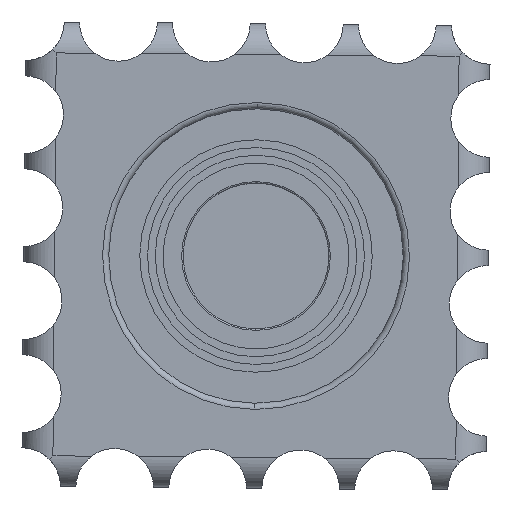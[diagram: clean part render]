
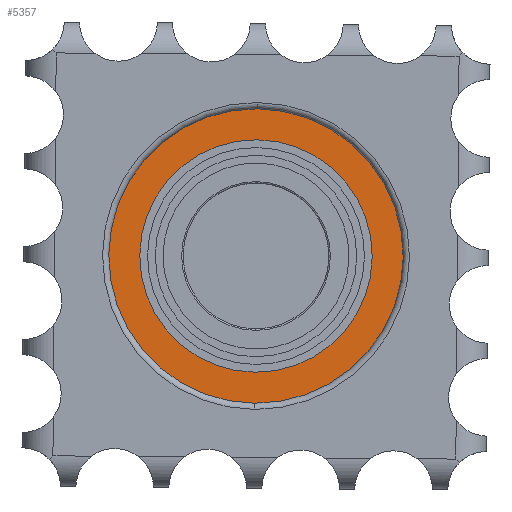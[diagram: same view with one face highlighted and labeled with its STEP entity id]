
A CAD part, front view. The second image highlights one B-rep face of the part: STEP entity #5357.
In plain terms, the highlighted planar face has unit normal (0, -1, 0).
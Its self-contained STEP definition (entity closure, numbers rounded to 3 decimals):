
#770 = FACE_BOUND ( 'NONE', #3959, .T. ) ;
#872 = EDGE_LOOP ( 'NONE', ( #2898, #2357 ) ) ;
#908 = CARTESIAN_POINT ( 'NONE',  ( 0., 2., 37.5 ) ) ;
#917 = CARTESIAN_POINT ( 'NONE',  ( 0., 2., 0. ) ) ;
#979 = DIRECTION ( 'NONE',  ( 0., 1., 0. ) ) ;
#1129 = AXIS2_PLACEMENT_3D ( 'NONE', #917, #1897, #4273 ) ;
#1205 = EDGE_CURVE ( 'NONE', #3517, #1518, #4830, .T. ) ;
#1348 = PLANE ( 'NONE',  #3255 ) ;
#1372 = CARTESIAN_POINT ( 'NONE',  ( 0., 2., 0. ) ) ;
#1518 = VERTEX_POINT ( 'NONE', #908 ) ;
#1589 = CARTESIAN_POINT ( 'NONE',  ( 0., 2., 0. ) ) ;
#1768 = CARTESIAN_POINT ( 'NONE',  ( 0., 2., -47.5 ) ) ;
#1825 = DIRECTION ( 'NONE',  ( 0., -1., 0. ) ) ;
#1851 = CARTESIAN_POINT ( 'NONE',  ( 0., 2., 0. ) ) ;
#1897 = DIRECTION ( 'NONE',  ( 0., 1., 0. ) ) ;
#1991 = CARTESIAN_POINT ( 'NONE',  ( 0., 2., 0. ) ) ;
#2088 = EDGE_CURVE ( 'NONE', #1518, #3517, #2513, .T. ) ;
#2357 = ORIENTED_EDGE ( 'NONE', *, *, #5353, .T. ) ;
#2513 = CIRCLE ( 'NONE', #3542, 37.5 ) ;
#2817 = VERTEX_POINT ( 'NONE', #1768 ) ;
#2822 = DIRECTION ( 'NONE',  ( 0., 0., -1. ) ) ;
#2898 = ORIENTED_EDGE ( 'NONE', *, *, #5150, .T. ) ;
#2916 = DIRECTION ( 'NONE',  ( 0., 0., -1. ) ) ;
#3255 = AXIS2_PLACEMENT_3D ( 'NONE', #1851, #5195, #2822 ) ;
#3375 = CARTESIAN_POINT ( 'NONE',  ( 0., 2., 47.5 ) ) ;
#3517 = VERTEX_POINT ( 'NONE', #5910 ) ;
#3542 = AXIS2_PLACEMENT_3D ( 'NONE', #1991, #979, #2916 ) ;
#3841 = AXIS2_PLACEMENT_3D ( 'NONE', #1589, #4907, #5378 ) ;
#3934 = CIRCLE ( 'NONE', #3841, 47.5 ) ;
#3959 = EDGE_LOOP ( 'NONE', ( #4206, #4972 ) ) ;
#4206 = ORIENTED_EDGE ( 'NONE', *, *, #1205, .T. ) ;
#4273 = DIRECTION ( 'NONE',  ( 0., 0., -1. ) ) ;
#4631 = AXIS2_PLACEMENT_3D ( 'NONE', #1372, #1825, #4765 ) ;
#4765 = DIRECTION ( 'NONE',  ( 0., 0., -1. ) ) ;
#4830 = CIRCLE ( 'NONE', #1129, 37.5 ) ;
#4907 = DIRECTION ( 'NONE',  ( 0., -1., 0. ) ) ;
#4972 = ORIENTED_EDGE ( 'NONE', *, *, #2088, .T. ) ;
#5150 = EDGE_CURVE ( 'NONE', #5908, #2817, #3934, .T. ) ;
#5195 = DIRECTION ( 'NONE',  ( 0., -1., 0. ) ) ;
#5353 = EDGE_CURVE ( 'NONE', #2817, #5908, #6012, .T. ) ;
#5357 = ADVANCED_FACE ( 'NONE', ( #5413, #770 ), #1348, .T. ) ;
#5378 = DIRECTION ( 'NONE',  ( 0., 0., -1. ) ) ;
#5413 = FACE_OUTER_BOUND ( 'NONE', #872, .T. ) ;
#5908 = VERTEX_POINT ( 'NONE', #3375 ) ;
#5910 = CARTESIAN_POINT ( 'NONE',  ( 0., 2., -37.5 ) ) ;
#6012 = CIRCLE ( 'NONE', #4631, 47.5 ) ;
